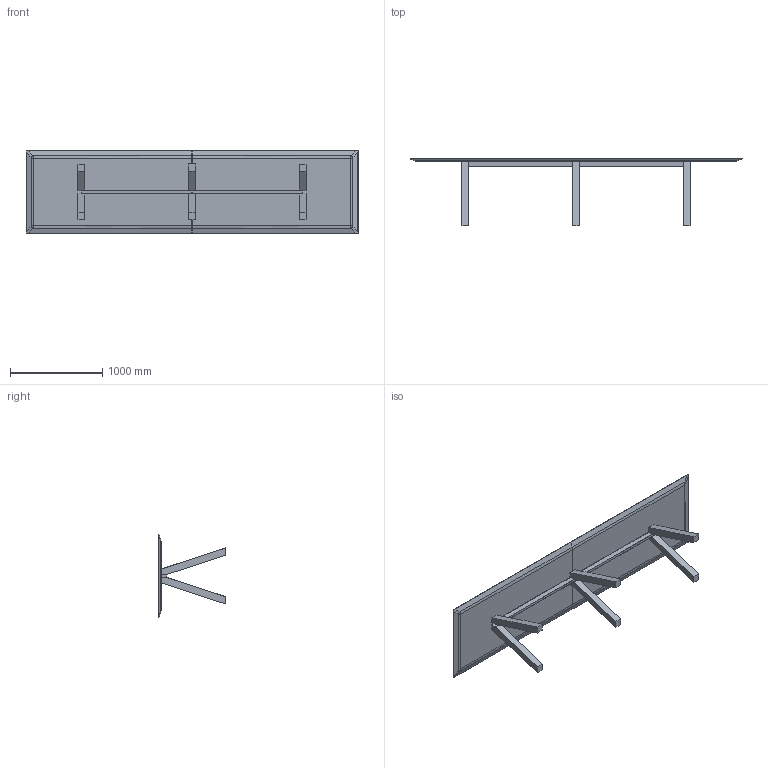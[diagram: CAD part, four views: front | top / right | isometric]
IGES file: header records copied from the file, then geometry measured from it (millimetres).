
Start section: SolidWorks IGES file using NURBS representation for surfaces
Global section: file name: W:\01-VICCARBE\PRODUCTOS\45-TRESTLE\04-MODELADOS (PLANOS)\WEB\table\3D\IGES\viccarbe_trestle_table_double.IGS; native system: SolidWorks 2013; preprocessor: SolidWorks 2013; author: Usuario; date: 140918.102233; units: millimetre
Bounding box: 3600 x 729 x 900 mm (x, y, z)
Surface area: 8815084.1 mm2 (no closed solid volume)
Topology: 0 solids, 0 shells, 150 faces, 736 edges, 708 vertices
Faces by surface type: bspline 150
